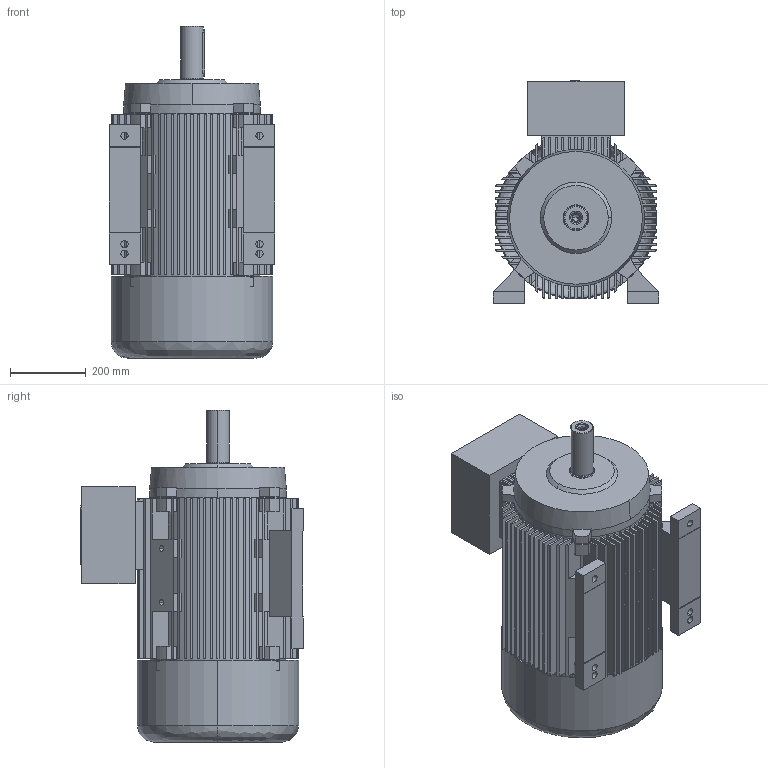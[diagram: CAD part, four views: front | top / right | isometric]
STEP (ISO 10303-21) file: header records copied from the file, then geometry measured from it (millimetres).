
FILE_DESCRIPTION (( 'STEP AP203' ), '1' );
FILE_NAME ('20.18426_A 7AT 225S&M -4, -6, -8 B3 STANDK.STEP', '2018-04-24T12:05:45', ( '' ), ( '' ), 'SwSTEP 2.0', 'SolidWorks 2017', '' );
FILE_SCHEMA (( 'CONFIG_CONTROL_DESIGN' ));
Length unit declared in the file: millimetre
Products named in the file (1): 20.18426_A 7AT 225S&M -4, -6, -8 B3 STANDK
Bounding box: 436 x 587 x 875 mm (x, y, z)
Volume: 36793375.7 mm3; surface area: 5231382.5 mm2
Topology: 8 solids, 8 shells, 827 faces, 2225 edges, 1463 vertices
Faces by surface type: plane 654, cylinder 122, cone 38, bspline 13
Entity records: 26447 total; most frequent: CARTESIAN_POINT 5335, ORIENTED_EDGE 4414, DIRECTION 4301, EDGE_CURVE 2207, VECTOR 1659, LINE 1659, VERTEX_POINT 1463, AXIS2_PLACEMENT_3D 1321
